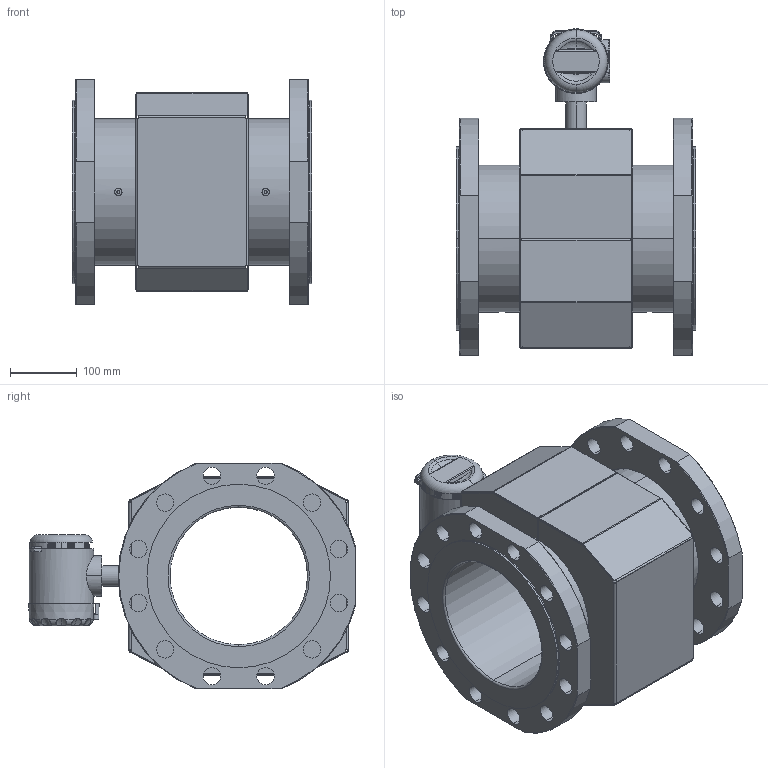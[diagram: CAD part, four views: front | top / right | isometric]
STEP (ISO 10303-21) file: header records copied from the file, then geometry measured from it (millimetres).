
FILE_DESCRIPTION (( 'STEP AP214' ), '1' );
FILE_NAME ('ﾏ頸褞ⅴ ﾏﾐﾎ200.STEP', '2021-07-23T12:47:52', ( '' ), ( '' ), 'SwSTEP 2.0', 'SolidWorks 2016', '' );
FILE_SCHEMA (( 'AUTOMOTIVE_DESIGN' ));
Length unit declared in the file: millimetre
Products named in the file (1): ﾏ頸褞ⅴ ﾏﾐﾎ200
Bounding box: 358 x 487.44 x 336 mm (x, y, z)
Surface area: 1309819.6 mm2 (no closed solid volume)
Topology: 0 solids, 35 shells, 494 faces, 1707 edges, 1211 vertices
Faces by surface type: plane 198, cylinder 132, cone 99, torus 40, bspline 23, sphere 2
Entity records: 27993 total; most frequent: CARTESIAN_POINT 8185, DIRECTION 3032, ORIENTED_EDGE 2608, EDGE_CURVE 1705, VERTEX_POINT 1211, AXIS2_PLACEMENT_3D 1089, LINE 854, VECTOR 854
